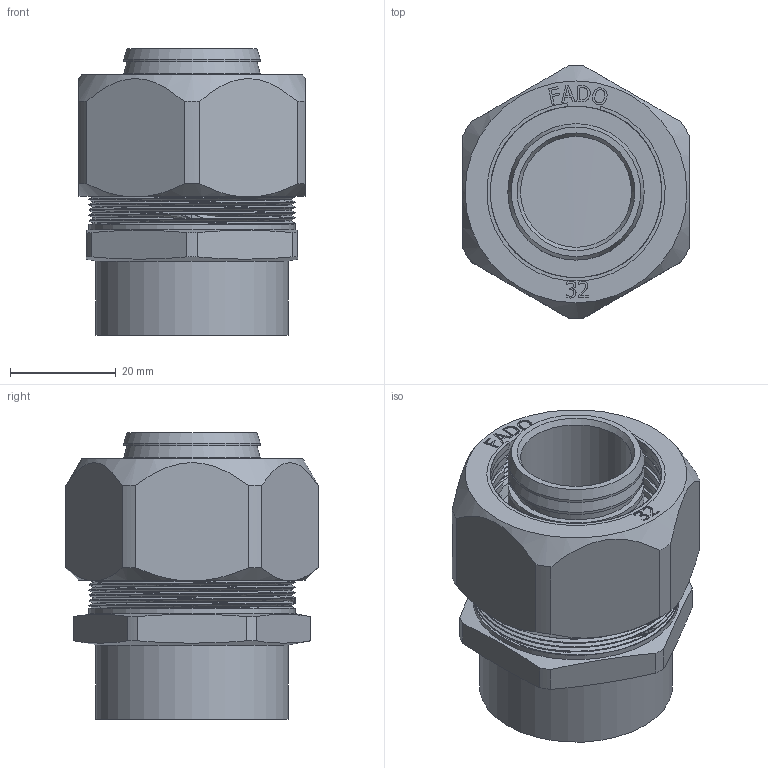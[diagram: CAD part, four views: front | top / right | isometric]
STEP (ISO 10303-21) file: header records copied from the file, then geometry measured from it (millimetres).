
FILE_DESCRIPTION(/* description */ (''),/* implementation_level */ '2;1');
FILE_NAME(/* name */ 'C:\Users\Doom\Desktop\Фадотех\Обжим\RFM18 32x1F 30.03.2020\RFM18 32x1F 30.03.2020.stp',/* time_stamp */ '2022-06-01T21:36:51+03:00',/* author */ ('Doom'),/* organization */ (''),/* preprocessor_version */ 'ST-DEVELOPER v18',/* originating_system */ 'Autodesk Inventor 2020',/* authorisation */ '');
FILE_SCHEMA (('AUTOMOTIVE_DESIGN { 1 0 10303 214 3 1 1 }'));
Length unit declared in the file: millimetre
Products named in the file (5): RFM18 32x1F 30.03.2020; RFM18 32x1F 30.03.2020_1; FADO MC Nut-32 15.02.2020; FADO MC Socket-32 15.02.2020; Olive 20 15.02.2020
Assembly tree (4 placements, depth 2):
  RFM18 32x1F 30.03.2020
    RFM18 32x1F 30.03.2020_1
    FADO MC Nut-32 15.02.2020
    FADO MC Socket-32 15.02.2020
    Olive 20 15.02.2020
Bounding box: 42.8 x 47.79 x 54.3 mm (x, y, z)
Volume: 33734.5 mm3; surface area: 41449.5 mm2
Topology: 7 solids, 7 shells, 556 faces, 1548 edges, 1045 vertices
Faces by surface type: bspline 272, plane 153, cylinder 106, cone 23, torus 2
Full cylindrical faces by diameter (mm): 21 x1, 23.6 x2, 25.8 x5, 26 x1, 29.776 x6, 29.995 x1, 30 x2, 32.5 x1, 33.2 x2, 36.5 x2, 37.517 x19, 38.2 x1, 39 x17
Entity records: 41442 total; most frequent: CARTESIAN_POINT 28853, ORIENTED_EDGE 3088, DIRECTION 1729, EDGE_CURVE 1544, VERTEX_POINT 1043, B_SPLINE_CURVE_WITH_KNOTS 647, EDGE_LOOP 609, LINE 583
